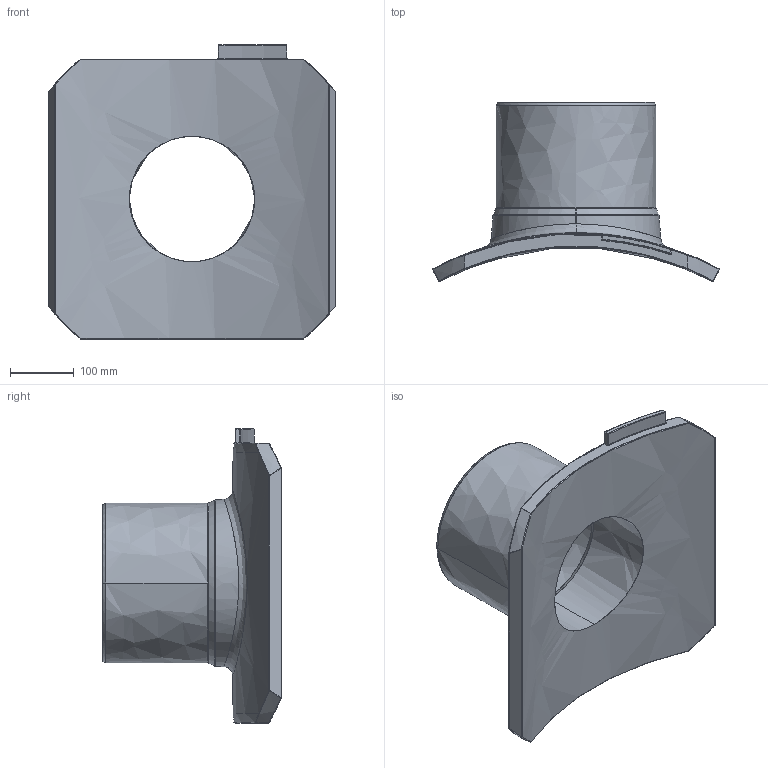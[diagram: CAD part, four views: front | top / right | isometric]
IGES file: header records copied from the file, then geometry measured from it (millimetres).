
Start section:  PTC IGES file: sa-uni_d900_250_01.igs
Global section: file name: sa-uni_d900_250_01.igs; native system: Creo Parametric by PTC Inc.; preprocessor: 2022124; author: mikulicp; organization: Unknown; date: 20240701.113652; units: millimetre
Bounding box: 448.18 x 279.78 x 460 mm (x, y, z)
Surface area: 674076.8 mm2 (no closed solid volume)
Topology: 0 solids, 0 shells, 239 faces, 1150 edges, 1150 vertices
Faces by surface type: bspline 239
